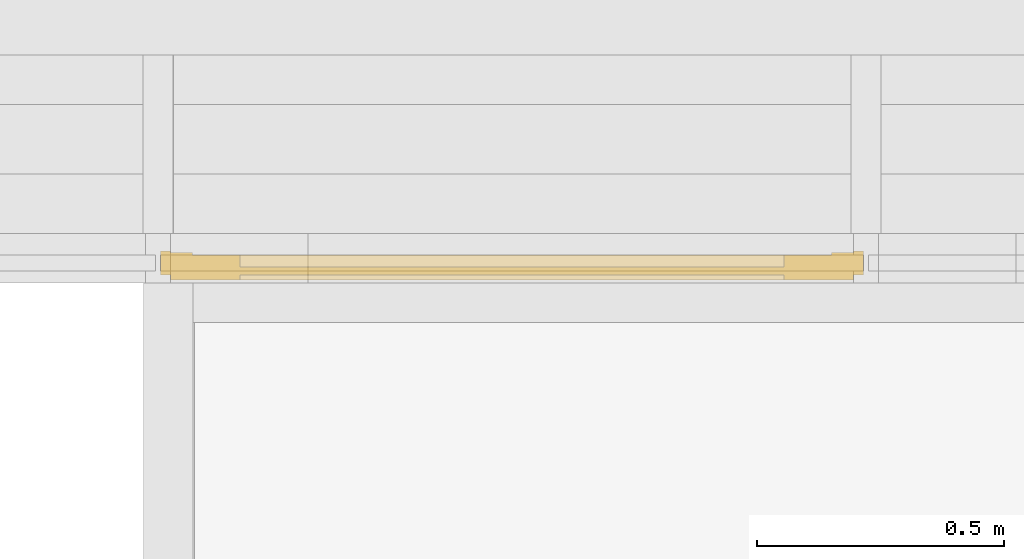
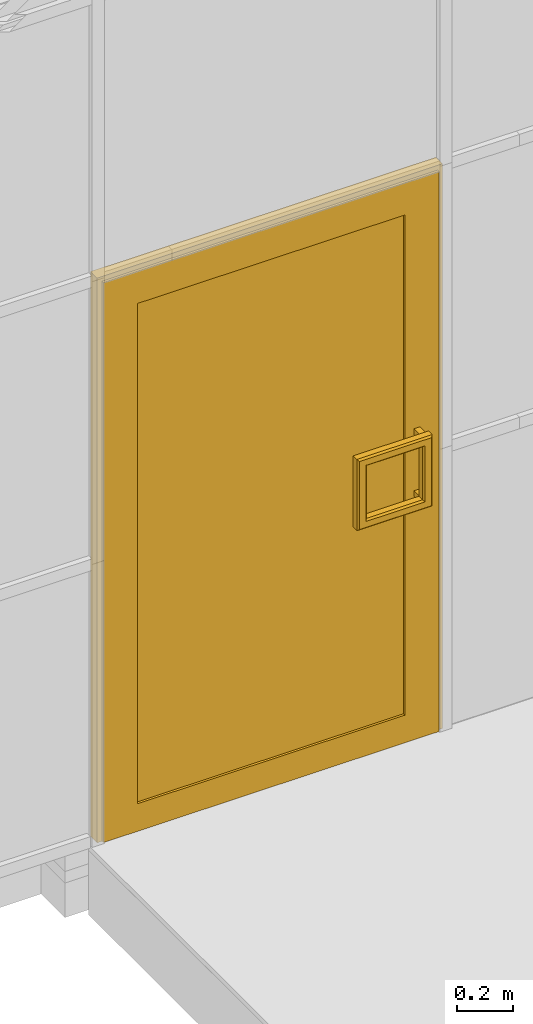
# One storey, part 238 of 260: 1 door, 1 element without a shape of its own.
"""IFC2X3 building model written with IfcOpenShell, lengths in millimetres."""

from ifc_helpers import new_model, entity, si_unit, converted_unit, derived_unit, money_unit, direction, frame, origin_with_axes, place, context, subcontext, project, spatial, faceted_brep, material, material_list, type_object, element, aggregate, save


model = new_model("IFC2X3")

# Units and contexts
model_context = context("Model", 3, precision=0.01, world=origin_with_axes(), true_north=direction((0.0, 1.0)))
body_context = subcontext(model_context, "Body", "Model", "MODEL_VIEW")
ifc_project = project(units=[si_unit("LENGTHUNIT", "METRE", prefix="MILLI"), si_unit("AREAUNIT", "SQUARE_METRE"), si_unit("VOLUMEUNIT", "CUBIC_METRE"), converted_unit("PLANEANGLEUNIT", "DEGREE", entity("IfcPlaneAngleMeasure", 0.0174532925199), si_unit("PLANEANGLEUNIT", "RADIAN"), dimensions=[0, 0, 0, 0, 0, 0, 0]), money_unit("EUR"), converted_unit("TIMEUNIT", "Year", entity("IfcTimeMeasure", 31556926.0), si_unit("TIMEUNIT", "SECOND"), dimensions=[0, 0, 1, 0, 0, 0, 0]), si_unit("MASSUNIT", "GRAM", prefix="KILO"), si_unit("THERMODYNAMICTEMPERATUREUNIT", "DEGREE_CELSIUS"), si_unit("LUMINOUSINTENSITYUNIT", "LUMEN"), si_unit("ENERGYUNIT", "JOULE", prefix="MEGA"), derived_unit("THERMALCONDUCTANCEUNIT", [(si_unit("POWERUNIT", "WATT"), 1), (si_unit("LENGTHUNIT", "METRE"), -1), (si_unit("THERMODYNAMICTEMPERATUREUNIT", "KELVIN"), -1)]), derived_unit("SPECIFICHEATCAPACITYUNIT", [(si_unit("ENERGYUNIT", "JOULE"), 1), (si_unit("MASSUNIT", "GRAM", prefix="KILO"), -1), (si_unit("THERMODYNAMICTEMPERATUREUNIT", "KELVIN"), -1)]), derived_unit("MASSDENSITYUNIT", [(si_unit("MASSUNIT", "GRAM", prefix="KILO"), 1), (si_unit("VOLUMEUNIT", "CUBIC_METRE"), -1)])], contexts=[model_context])

# Site, building, storey
site_placement = place(None, origin_with_axes())
site = spatial("IfcSite", under=ifc_project, at=site_placement, Name="Kolde pst 67a", CompositionType="ELEMENT")
building_placement = place(site_placement, origin_with_axes())
building = spatial("IfcBuilding", under=site, at=building_placement, Name="Riigigümnaasium", CompositionType="ELEMENT")
storey_placement = place(building_placement, origin_with_axes())
storey = spatial("IfcBuildingStorey", under=building, at=storey_placement, Name="1. korrus", CompositionType="ELEMENT", Elevation=0.0)

# Curtain wall, door
curtain_wall_type = type_object("IfcCurtainWallType", Name="Curtain Wall Type", PredefinedType="NOTDEFINED")
curtain_wall_placement = place(storey_placement, frame((47829.9854655, 8727.77020058, -0.000749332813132), z_axis=(0.0, 0.0, 1.0), x_axis=(1.0, 0.0, 0.0)))
curtain_wall = element("IfcCurtainWall", 1, at=curtain_wall_placement, inside=storey, type_object=curtain_wall_type, Name="KLAASFASSAAD")
ifc_material_1 = material(Name="_METALL - alumiinium")
ifc_material_2 = material(Name="_KLAAS - kirgas")
ifc_material_3 = material(Name="_METALL - teras")
ifc_material_4 = material(Name="Birch")
ifc_material_list = material_list([ifc_material_1, ifc_material_2, ifc_material_3, ifc_material_4])
door_style = type_object("IfcDoorStyle", Name="1122 x 1225 x 48", ConstructionType="NOTDEFINED", OperationType="SINGLE_SWING_RIGHT", ParameterTakesPrecedence=False, Sizeable=False)
door_placement = place(curtain_wall_placement, frame((2122.63432665, -1457.77067506, 1230.00073817), z_axis=(0.0, 0.0, 1.0), x_axis=(-1.0, 2.70881141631e-07, 0.0)))
door = element("IfcDoor", 2, at=door_placement, type_object=door_style, material=ifc_material_list, Name="Peauks", ObjectType="DOOR", OverallHeight=2435.0, OverallWidth=1380.0, context=body_context, shape_type="Brep", body=[
    faceted_brep([(586.97709102, -20.9999999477, -1230.0000186), (586.977091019, -15.9999999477, -1230.0000186), (586.977091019, -15.9999999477, 1205.00001086), (586.97709102, -20.9999999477, 1205.00001086), (541.97709102, -20.9999999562, -1230.0000186), (541.977091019, -15.9999999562, -1230.0000186), (541.977091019, -15.9999999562, 1160.00001086), (541.97709102, -20.9999999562, 1160.00001086)], [[[0, 1, 2, 3]], [[4, 5, 1, 0]], [[1, 5, 6, 2]], [[3, 2, 6, 7]], [[0, 3, 7, 4]], [[7, 6, 5, 4]]]),
    faceted_brep([(-793.022925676, -21.0000002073, 1205.00001086), (-793.022925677, -16.0000002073, 1205.00001086), (-748.022925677, -16.0000001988, 1160.00001086), (-748.022925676, -21.0000001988, 1160.00001086), (586.97709102, -20.9999999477, 1205.00001086), (586.977091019, -15.9999999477, 1205.00001086), (541.977091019, -15.9999999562, 1160.00001086), (541.97709102, -20.9999999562, 1160.00001086)], [[[0, 1, 2, 3]], [[4, 5, 1, 0]], [[1, 5, 6, 2]], [[3, 2, 6, 7]], [[0, 3, 7, 4]], [[7, 6, 5, 4]]]),
    faceted_brep([(-793.022925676, -21.0000002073, -1230.0000186), (-793.022925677, -16.0000002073, -1230.0000186), (-748.022925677, -16.0000001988, -1230.0000186), (-748.022925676, -21.0000001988, -1230.0000186), (-793.022925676, -21.0000002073, 1205.00001086), (-793.022925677, -16.0000002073, 1205.00001086), (-748.022925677, -16.0000001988, 1160.00001086), (-748.022925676, -21.0000001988, 1160.00001086)], [[[0, 1, 2, 3]], [[4, 5, 1, 0]], [[1, 5, 6, 2]], [[3, 2, 6, 7]], [[0, 3, 7, 4]], [[7, 6, 5, 4]]]),
    faceted_brep([(586.977091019, -15.9999999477, -1230.0000186), (586.977091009, 34.0000000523, -1230.0000186), (586.977091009, 34.0000000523, 1205.00001086), (586.977091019, -15.9999999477, 1205.00001086), (566.977091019, -15.9999999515, -1230.0000186), (566.977091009, 34.0000000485, -1230.0000186), (566.977091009, 34.0000000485, 1185.00001086), (566.977091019, -15.9999999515, 1185.00001086)], [[[0, 1, 2, 3]], [[4, 5, 1, 0]], [[1, 5, 6, 2]], [[3, 2, 6, 7]], [[0, 3, 7, 4]], [[7, 6, 5, 4]]]),
    faceted_brep([(-793.022925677, -16.0000002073, 1205.00001086), (-793.022925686, 33.9999997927, 1205.00001086), (-773.022925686, 33.9999997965, 1185.00001086), (-773.022925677, -16.0000002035, 1185.00001086), (586.977091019, -15.9999999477, 1205.00001086), (586.977091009, 34.0000000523, 1205.00001086), (566.977091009, 34.0000000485, 1185.00001086), (566.977091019, -15.9999999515, 1185.00001086)], [[[0, 1, 2, 3]], [[4, 5, 1, 0]], [[1, 5, 6, 2]], [[3, 2, 6, 7]], [[0, 3, 7, 4]], [[7, 6, 5, 4]]]),
    faceted_brep([(-793.022925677, -16.0000002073, -1230.0000186), (-793.022925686, 33.9999997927, -1230.0000186), (-773.022925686, 33.9999997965, -1230.0000186), (-773.022925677, -16.0000002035, -1230.0000186), (-793.022925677, -16.0000002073, 1205.00001086), (-793.022925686, 33.9999997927, 1205.00001086), (-773.022925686, 33.9999997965, 1185.00001086), (-773.022925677, -16.0000002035, 1185.00001086)], [[[0, 1, 2, 3]], [[4, 5, 1, 0]], [[1, 5, 6, 2]], [[3, 2, 6, 7]], [[0, 3, 7, 4]], [[7, 6, 5, 4]]]),
    faceted_brep([(606.977091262, -23.999999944, -1230.0000186), (606.977091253, 24.000000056, -1230.0000186), (606.977091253, 24.000000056, 1225.0000111), (606.977091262, -23.999999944, 1225.0000111), (586.97709102, -23.9999999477, -1230.0000186), (586.977091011, 24.0000000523, -1230.0000186), (586.977091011, 24.0000000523, 1205.00001086), (586.97709102, -23.9999999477, 1205.00001086)], [[[0, 1, 2, 3]], [[4, 5, 1, 0]], [[1, 5, 6, 2]], [[3, 2, 6, 7]], [[0, 3, 7, 4]], [[7, 6, 5, 4]]]),
    faceted_brep([(606.977091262, -23.999999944, 1225.0000111), (606.977091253, 24.000000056, 1225.0000111), (-813.022925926, 23.9999997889, 1225.0000111), (-813.022925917, -24.0000002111, 1225.0000111), (586.97709102, -23.9999999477, 1205.00001086), (586.977091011, 24.0000000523, 1205.00001086), (-793.022925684, 23.9999997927, 1205.00001086), (-793.022925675, -24.0000002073, 1205.00001086)], [[[0, 1, 2, 3]], [[4, 5, 1, 0]], [[1, 5, 6, 2]], [[3, 2, 6, 7]], [[0, 3, 7, 4]], [[7, 6, 5, 4]]]),
    faceted_brep([(-813.022925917, -24.0000002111, 1225.0000111), (-813.022925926, 23.9999997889, 1225.0000111), (-813.022925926, 23.9999997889, -1230.0000186), (-813.022925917, -24.0000002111, -1230.0000186), (-793.022925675, -24.0000002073, 1205.00001086), (-793.022925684, 23.9999997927, 1205.00001086), (-793.022925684, 23.9999997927, -1230.0000186), (-793.022925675, -24.0000002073, -1230.0000186)], [[[0, 1, 2, 3]], [[4, 5, 1, 0]], [[1, 5, 6, 2]], [[3, 2, 6, 7]], [[0, 3, 7, 4]], [[7, 6, 5, 4]]]),
    faceted_brep([(-653.022925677, -16.000000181, -1110.0000186), (-653.022925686, 33.999999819, -1110.0000186), (-653.022925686, 33.999999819, 1065.00001086), (-653.022925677, -16.000000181, 1065.00001086), (-773.022925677, -16.0000002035, -1230.0000186), (-773.022925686, 33.9999997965, -1230.0000186), (-773.022925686, 33.9999997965, 1185.00001086), (-773.022925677, -16.0000002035, 1185.00001086)], [[[0, 1, 2, 3]], [[4, 5, 1, 0]], [[1, 5, 6, 2]], [[3, 2, 6, 7]], [[0, 3, 7, 4]], [[7, 6, 5, 4]]]),
    faceted_brep([(566.977091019, -15.9999999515, -1230.0000186), (566.977091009, 34.0000000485, -1230.0000186), (566.977091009, 34.0000000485, 1185.00001086), (566.977091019, -15.9999999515, 1185.00001086), (446.977091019, -15.9999999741, -1110.0000186), (446.977091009, 34.0000000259, -1110.0000186), (446.977091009, 34.0000000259, 1065.00001086), (446.977091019, -15.9999999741, 1065.00001086)], [[[0, 1, 2, 3]], [[4, 5, 1, 0]], [[1, 5, 6, 2]], [[3, 2, 6, 7]], [[0, 3, 7, 4]], [[7, 6, 5, 4]]]),
    faceted_brep([(566.977091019, -15.9999999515, -1230.0000186), (566.977091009, 34.0000000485, -1230.0000186), (446.977091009, 34.0000000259, -1110.0000186), (446.977091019, -15.9999999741, -1110.0000186), (-773.022925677, -16.0000002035, -1230.0000186), (-773.022925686, 33.9999997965, -1230.0000186), (-653.022925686, 33.999999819, -1110.0000186), (-653.022925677, -16.000000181, -1110.0000186)], [[[0, 1, 2, 3]], [[4, 5, 1, 0]], [[1, 5, 6, 2]], [[3, 2, 6, 7]], [[0, 3, 7, 4]], [[7, 6, 5, 4]]]),
    faceted_brep([(-773.022925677, -16.0000002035, 1185.00001086), (-773.022925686, 33.9999997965, 1185.00001086), (-653.022925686, 33.999999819, 1065.00001086), (-653.022925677, -16.000000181, 1065.00001086), (566.977091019, -15.9999999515, 1185.00001086), (566.977091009, 34.0000000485, 1185.00001086), (446.977091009, 34.0000000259, 1065.00001086), (446.977091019, -15.9999999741, 1065.00001086)], [[[0, 1, 2, 3]], [[4, 5, 1, 0]], [[1, 5, 6, 2]], [[3, 2, 6, 7]], [[0, 3, 7, 4]], [[7, 6, 5, 4]]]),
    faceted_brep([(-653.022925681, 7.99999981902, -1110.0000186), (-653.022925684, 23.999999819, -1110.0000186), (446.977091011, 24.0000000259, -1110.0000186), (446.977091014, 8.00000002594, -1110.0000186), (-653.022925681, 7.99999981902, 1065.00001086), (-653.022925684, 23.999999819, 1065.00001086), (446.977091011, 24.0000000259, 1065.00001086), (446.977091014, 8.00000002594, 1065.00001086)], [[[0, 1, 2, 3]], [[4, 5, 1, 0]], [[1, 5, 6, 2]], [[3, 2, 6, 7]], [[0, 3, 7, 4]], [[7, 6, 5, 4]]]),
    faceted_brep([(-690.522925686, 33.999999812, -147.050018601), (-690.522925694, 73.999999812, -147.050018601), (-715.522925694, 73.9999998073, -147.050018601), (-715.522925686, 33.9999998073, -147.050018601), (-690.522925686, 33.999999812, -172.050018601), (-690.522925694, 73.999999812, -172.050018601), (-715.522925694, 73.9999998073, -172.050018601), (-715.522925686, 33.9999998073, -172.050018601)], [[[0, 1, 2, 3]], [[4, 5, 1, 0]], [[1, 5, 6, 2]], [[3, 2, 6, 7]], [[0, 3, 7, 4]], [[7, 6, 5, 4]]]),
    faceted_brep([(-690.072925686, 33.9999998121, 97.0499813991), (-690.072925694, 73.9999998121, 97.0499813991), (-690.072925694, 73.9999998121, 122.049981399), (-690.072925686, 33.9999998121, 122.049981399), (-715.072925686, 33.9999998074, 97.0499813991), (-715.072925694, 73.9999998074, 97.0499813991), (-715.072925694, 73.9999998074, 122.049981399), (-715.072925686, 33.9999998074, 122.049981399)], [[[0, 1, 2, 3]], [[4, 5, 1, 0]], [[1, 5, 6, 2]], [[3, 2, 6, 7]], [[0, 3, 7, 4]], [[7, 6, 5, 4]]]),
    faceted_brep([(-433.022925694, 73.9999998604, -160.000018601), (-433.022925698, 98.9999998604, -160.000018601), (-433.022925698, 98.9999998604, 109.999981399), (-433.022925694, 73.9999998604, 109.999981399), (-703.022925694, 73.9999998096, -160.000018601), (-703.022925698, 98.9999998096, -160.000018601), (-703.022925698, 98.9999998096, 109.999981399), (-438.022925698, 98.9999998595, -155.000018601), (-438.022925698, 98.9999998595, 104.999981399), (-698.022925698, 98.9999998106, 104.999981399), (-698.022925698, 98.9999998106, -155.000018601), (-703.022925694, 73.9999998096, 109.999981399), (-438.022925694, 73.9999998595, -155.000018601), (-698.022925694, 73.9999998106, -155.000018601), (-698.022925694, 73.9999998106, 104.999981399), (-438.022925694, 73.9999998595, 104.999981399)], [[[0, 1, 2, 3]], [[4, 5, 1, 0]], [[1, 5, 6, 2], [7, 8, 9, 10]], [[3, 2, 6, 11]], [[0, 3, 11, 4], [12, 13, 14, 15]], [[11, 6, 5, 4]], [[15, 8, 7, 12]], [[14, 9, 8, 15]], [[13, 10, 9, 14]], [[12, 7, 10, 13]]]),
    faceted_brep([(-453.022925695, 81.0499998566, -155.000018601), (-453.022925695, 81.0499998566, -140.000018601), (-445.972925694, 73.999999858, -147.050018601), (-445.972925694, 73.999999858, -155.000018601), (-453.022925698, 98.9999998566, -155.000018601), (-453.022925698, 98.9999998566, -160.000018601), (-453.022925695, 81.0499998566, -160.000018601), (-453.022925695, 81.0499998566, -180.000018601), (-453.0229257, 106.949999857, -180.000018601), (-453.0229257, 106.949999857, -140.000018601), (-698.022925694, 73.9999998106, -147.050018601), (-698.022925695, 81.0499998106, -140.000018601), (-698.022925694, 73.9999998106, -155.000018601), (-698.022925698, 98.9999998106, -155.000018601), (-698.022925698, 98.9999998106, -140.000018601), (-703.022925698, 98.9999998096, -140.000018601), (-703.022925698, 98.9999998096, -160.000018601), (-703.022925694, 73.9999998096, -160.000018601), (-445.972925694, 73.999999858, -160.000018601), (-445.972925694, 73.999999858, -172.950018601), (-723.022925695, 81.0499998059, -180.000018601), (-723.0229257, 106.949999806, -180.000018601), (-445.972925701, 113.999999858, -172.950018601), (-445.972925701, 113.999999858, -147.050018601), (-723.0229257, 106.949999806, -140.000018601), (-723.022925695, 81.0499998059, -140.000018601), (-703.022925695, 81.0499998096, -140.000018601), (-703.022925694, 73.9999998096, -147.050018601), (-715.972925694, 73.9999998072, -147.050018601), (-715.972925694, 73.9999998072, -172.950018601), (-715.972925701, 113.999999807, -172.950018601), (-715.972925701, 113.999999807, -147.050018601)], [[[0, 1, 2, 3]], [[4, 5, 6, 7, 8, 9, 1, 0]], [[10, 2, 1, 11]], [[12, 3, 2, 10]], [[12, 13, 4, 0, 3]], [[4, 13, 14, 15, 16, 5]], [[6, 5, 16, 17, 18]], [[18, 19, 7, 6]], [[20, 21, 8, 7]], [[8, 22, 23, 9]], [[15, 14, 11, 1, 9, 24, 25, 26]], [[14, 13, 12, 10, 11]], [[26, 27, 17, 16, 15]], [[17, 27, 28, 29, 19, 18]], [[29, 20, 7, 19]], [[20, 25, 24, 21]], [[21, 30, 22, 8]], [[30, 31, 23, 22]], [[31, 24, 9, 23]], [[26, 25, 28, 27]], [[29, 28, 25, 20]], [[24, 31, 30, 21]]]),
    faceted_brep([(-698.022925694, 73.9999998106, -147.050018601), (-690.072925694, 73.999999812, -147.050018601), (-690.072925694, 73.999999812, 97.0499813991), (-698.022925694, 73.9999998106, 97.0499813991), (-698.022925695, 81.0499998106, -140.000018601), (-683.022925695, 81.0499998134, -140.000018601), (-683.022925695, 81.0499998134, 89.9999813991), (-698.022925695, 81.0499998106, 89.9999813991), (-698.022925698, 98.9999998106, 89.9999813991), (-698.022925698, 98.9999998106, -140.000018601), (-703.022925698, 98.9999998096, -140.000018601), (-703.022925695, 81.0499998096, -140.000018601), (-723.022925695, 81.0499998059, -140.000018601), (-723.0229257, 106.949999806, -140.000018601), (-683.0229257, 106.949999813, -140.000018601), (-683.0229257, 106.949999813, 89.9999813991), (-703.022925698, 98.9999998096, 89.9999813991), (-723.0229257, 106.949999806, 89.9999813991), (-723.022925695, 81.0499998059, 89.9999813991), (-703.022925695, 81.0499998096, 89.9999813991), (-703.022925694, 73.9999998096, -147.050018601), (-703.022925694, 73.9999998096, 97.0499813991), (-715.972925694, 73.9999998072, -147.050018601), (-715.972925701, 113.999999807, -147.050018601), (-690.072925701, 113.999999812, -147.050018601), (-690.072925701, 113.999999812, 97.0499813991), (-715.972925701, 113.999999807, 97.0499813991), (-715.972925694, 73.9999998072, 97.0499813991)], [[[0, 1, 2, 3]], [[4, 5, 1, 0]], [[6, 2, 1, 5]], [[3, 2, 6, 7]], [[7, 8, 9, 4, 0, 3]], [[9, 10, 11, 12, 13, 14, 5, 4]], [[15, 6, 5, 14]], [[16, 8, 7, 6, 15, 17, 18, 19]], [[16, 10, 9, 8]], [[20, 11, 10, 16, 19, 21]], [[20, 22, 12, 11]], [[18, 17, 13, 12]], [[13, 23, 24, 14]], [[25, 15, 14, 24]], [[26, 17, 15, 25]], [[19, 18, 27, 21]], [[21, 27, 22, 20]], [[27, 18, 12, 22]], [[17, 26, 23, 13]], [[26, 25, 24, 23]]]),
    faceted_brep([(-703.022925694, 73.9999998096, 109.999981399), (-433.022925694, 73.9999998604, 109.999981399), (-433.022925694, 73.9999998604, 97.0499813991), (-420.072925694, 73.9999998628, 97.0499813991), (-420.072925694, 73.9999998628, 122.949981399), (-715.972925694, 73.9999998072, 122.949981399), (-715.972925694, 73.9999998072, 97.0499813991), (-703.022925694, 73.9999998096, 97.0499813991), (-703.022925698, 98.9999998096, 109.999981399), (-433.022925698, 98.9999998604, 109.999981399), (-433.022925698, 98.9999998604, 89.9999813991), (-433.022925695, 81.0499998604, 89.9999813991), (-413.022925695, 81.0499998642, 89.9999813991), (-413.022925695, 81.0499998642, 129.999981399), (-723.022925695, 81.0499998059, 129.999981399), (-723.022925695, 81.0499998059, 89.9999813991), (-703.022925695, 81.0499998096, 89.9999813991), (-703.022925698, 98.9999998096, 89.9999813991), (-698.022925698, 98.9999998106, 89.9999813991), (-698.022925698, 98.9999998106, 104.999981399), (-438.022925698, 98.9999998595, 104.999981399), (-438.022925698, 98.9999998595, 89.9999813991), (-438.022925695, 81.0499998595, 89.9999813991), (-698.022925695, 81.0499998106, 89.9999813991), (-723.0229257, 106.949999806, 89.9999813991), (-413.0229257, 106.949999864, 89.9999813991), (-413.0229257, 106.949999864, 129.999981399), (-723.0229257, 106.949999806, 129.999981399), (-698.022925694, 73.9999998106, 104.999981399), (-698.022925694, 73.9999998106, 97.0499813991), (-438.022925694, 73.9999998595, 104.999981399), (-438.022925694, 73.9999998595, 97.0499813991), (-420.072925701, 113.999999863, 97.0499813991), (-715.972925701, 113.999999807, 97.0499813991), (-420.072925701, 113.999999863, 122.949981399), (-715.972925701, 113.999999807, 122.949981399)], [[[0, 1, 2, 3, 4, 5, 6, 7]], [[0, 8, 9, 1]], [[1, 9, 10, 11, 2]], [[11, 12, 3, 2]], [[3, 12, 13, 4]], [[4, 13, 14, 5]], [[15, 6, 5, 14]], [[7, 6, 15, 16]], [[7, 16, 17, 8, 0]], [[10, 9, 8, 17, 18, 19, 20, 21]], [[10, 21, 22, 23, 18, 17, 16, 15, 24, 25, 12, 11]], [[12, 25, 26, 13]], [[13, 26, 27, 14]], [[24, 15, 14, 27]], [[28, 19, 18, 23, 29]], [[30, 20, 19, 28]], [[31, 22, 21, 20, 30]], [[31, 29, 23, 22]], [[32, 25, 24, 33]], [[25, 32, 34, 26]], [[26, 34, 35, 27]], [[24, 27, 35, 33]], [[30, 28, 29, 31]], [[34, 32, 33, 35]]]),
    faceted_brep([(-445.972925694, 73.999999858, -160.000018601), (-445.972925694, 73.999999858, -172.950018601), (-420.072925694, 73.9999998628, -172.950018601), (-420.072925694, 73.9999998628, 97.0499813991), (-433.022925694, 73.9999998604, 97.0499813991), (-433.022925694, 73.9999998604, -160.000018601), (-453.022925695, 81.0499998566, -160.000018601), (-453.022925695, 81.0499998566, -180.000018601), (-413.022925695, 81.0499998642, -180.000018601), (-413.022925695, 81.0499998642, 89.9999813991), (-433.022925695, 81.0499998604, 89.9999813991), (-433.022925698, 98.9999998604, 89.9999813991), (-433.022925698, 98.9999998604, -160.000018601), (-453.022925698, 98.9999998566, -160.000018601), (-453.022925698, 98.9999998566, -155.000018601), (-453.022925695, 81.0499998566, -155.000018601), (-453.022925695, 81.0499998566, 89.9999813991), (-453.0229257, 106.949999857, 89.9999813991), (-453.0229257, 106.949999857, -180.000018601), (-413.0229257, 106.949999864, -180.000018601), (-413.0229257, 106.949999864, 89.9999813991), (-438.022925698, 98.9999998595, 89.9999813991), (-438.022925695, 81.0499998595, 89.9999813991), (-438.022925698, 98.9999998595, -155.000018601), (-445.972925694, 73.999999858, -155.000018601), (-438.022925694, 73.9999998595, -155.000018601), (-445.972925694, 73.999999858, 97.0499813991), (-445.972925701, 113.999999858, -172.950018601), (-445.972925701, 113.999999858, 97.0499813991), (-420.072925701, 113.999999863, -172.950018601), (-420.072925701, 113.999999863, 97.0499813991), (-438.022925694, 73.9999998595, 97.0499813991)], [[[0, 1, 2, 3, 4, 5]], [[6, 7, 1, 0]], [[7, 8, 2, 1]], [[2, 8, 9, 3]], [[4, 3, 9, 10]], [[10, 11, 12, 5, 4]], [[5, 12, 13, 6, 0]], [[13, 14, 15, 16, 17, 18, 7, 6]], [[18, 19, 8, 7]], [[8, 19, 20, 9]], [[21, 11, 10, 9, 20, 17, 16, 22]], [[21, 23, 14, 13, 12, 11]], [[24, 15, 14, 23, 25]], [[24, 26, 16, 15]], [[27, 18, 17, 28]], [[27, 29, 19, 18]], [[19, 29, 30, 20]], [[28, 17, 20, 30]], [[22, 16, 26, 31]], [[25, 23, 21, 22, 31]], [[25, 31, 26, 24]], [[29, 27, 28, 30]]]),
    faceted_brep([(-690.522925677, -16.000000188, -147.050018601), (-715.522925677, -16.0000001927, -147.050018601), (-715.522925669, -56.0000001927, -147.050018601), (-690.522925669, -56.000000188, -147.050018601), (-690.522925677, -16.000000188, -172.050018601), (-715.522925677, -16.0000001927, -172.050018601), (-715.522925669, -56.0000001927, -172.050018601), (-690.522925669, -56.000000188, -172.050018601)], [[[0, 1, 2, 3]], [[0, 4, 5, 1]], [[1, 5, 6, 2]], [[3, 2, 6, 7]], [[4, 0, 3, 7]], [[5, 4, 7, 6]]]),
    faceted_brep([(-690.072925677, -16.0000001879, 97.0499813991), (-690.072925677, -16.0000001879, 122.049981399), (-690.072925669, -56.0000001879, 122.049981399), (-690.072925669, -56.0000001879, 97.0499813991), (-715.072925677, -16.0000001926, 97.0499813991), (-715.072925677, -16.0000001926, 122.049981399), (-715.072925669, -56.0000001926, 122.049981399), (-715.072925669, -56.0000001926, 97.0499813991)], [[[0, 1, 2, 3]], [[0, 4, 5, 1]], [[1, 5, 6, 2]], [[3, 2, 6, 7]], [[4, 0, 3, 7]], [[5, 4, 7, 6]]]),
    faceted_brep([(-433.022925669, -56.0000001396, -160.000018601), (-433.022925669, -56.0000001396, 109.999981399), (-433.022925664, -81.0000001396, 109.999981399), (-433.022925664, -81.0000001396, -160.000018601), (-703.022925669, -56.0000001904, -160.000018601), (-703.022925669, -56.0000001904, 109.999981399), (-438.022925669, -56.0000001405, -155.000018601), (-438.022925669, -56.0000001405, 104.999981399), (-698.022925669, -56.0000001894, 104.999981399), (-698.022925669, -56.0000001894, -155.000018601), (-703.022925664, -81.0000001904, 109.999981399), (-703.022925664, -81.0000001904, -160.000018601), (-438.022925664, -81.0000001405, -155.000018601), (-698.022925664, -81.0000001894, -155.000018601), (-698.022925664, -81.0000001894, 104.999981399), (-438.022925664, -81.0000001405, 104.999981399)], [[[0, 1, 2, 3]], [[0, 4, 5, 1], [6, 7, 8, 9]], [[1, 5, 10, 2]], [[3, 2, 10, 11], [12, 13, 14, 15]], [[4, 0, 3, 11]], [[5, 4, 11, 10]], [[7, 6, 12, 15]], [[8, 7, 15, 14]], [[9, 8, 14, 13]], [[6, 9, 13, 12]]]),
    faceted_brep([(-453.022925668, -63.0500001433, -155.000018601), (-445.972925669, -56.000000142, -155.000018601), (-445.972925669, -56.000000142, -147.050018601), (-453.022925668, -63.0500001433, -140.000018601), (-698.022925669, -56.0000001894, -155.000018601), (-453.022925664, -81.0000001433, -155.000018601), (-698.022925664, -81.0000001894, -155.000018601), (-698.022925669, -56.0000001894, -147.050018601), (-698.022925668, -63.0500001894, -140.000018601), (-453.022925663, -88.9500001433, -140.000018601), (-453.022925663, -88.9500001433, -180.000018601), (-453.022925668, -63.0500001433, -180.000018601), (-453.022925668, -63.0500001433, -160.000018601), (-453.022925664, -81.0000001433, -160.000018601), (-703.022925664, -81.0000001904, -160.000018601), (-703.022925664, -81.0000001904, -140.000018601), (-698.022925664, -81.0000001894, -140.000018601), (-703.022925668, -63.0500001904, -140.000018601), (-723.022925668, -63.0500001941, -140.000018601), (-723.022925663, -88.9500001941, -140.000018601), (-445.972925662, -96.000000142, -147.050018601), (-445.972925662, -96.000000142, -172.950018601), (-723.022925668, -63.0500001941, -180.000018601), (-723.022925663, -88.9500001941, -180.000018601), (-445.972925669, -56.000000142, -160.000018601), (-445.972925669, -56.000000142, -172.950018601), (-703.022925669, -56.0000001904, -160.000018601), (-703.022925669, -56.0000001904, -147.050018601), (-715.972925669, -56.0000001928, -147.050018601), (-715.972925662, -96.0000001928, -147.050018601), (-715.972925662, -96.0000001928, -172.950018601), (-715.972925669, -56.0000001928, -172.950018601)], [[[0, 1, 2, 3]], [[4, 1, 0, 5, 6]], [[4, 7, 2, 1]], [[7, 8, 3, 2]], [[5, 0, 3, 9, 10, 11, 12, 13]], [[5, 13, 14, 15, 16, 6]], [[16, 8, 7, 4, 6]], [[15, 17, 18, 19, 9, 3, 8, 16]], [[10, 9, 20, 21]], [[22, 11, 10, 23]], [[24, 12, 11, 25]], [[12, 24, 26, 14, 13]], [[17, 15, 14, 26, 27]], [[17, 27, 28, 18]], [[22, 23, 19, 18]], [[29, 20, 9, 19]], [[30, 21, 20, 29]], [[23, 10, 21, 30]], [[31, 25, 11, 22]], [[26, 24, 25, 31, 28, 27]], [[31, 22, 18, 28]], [[19, 23, 30, 29]]]),
    faceted_brep([(-698.022925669, -56.0000001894, -147.050018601), (-698.022925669, -56.0000001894, 97.0499813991), (-690.072925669, -56.0000001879, 97.0499813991), (-690.072925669, -56.0000001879, -147.050018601), (-698.022925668, -63.0500001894, 89.9999813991), (-698.022925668, -63.0500001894, -140.000018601), (-698.022925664, -81.0000001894, -140.000018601), (-698.022925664, -81.0000001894, 89.9999813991), (-683.022925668, -63.0500001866, 89.9999813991), (-683.022925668, -63.0500001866, -140.000018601), (-683.022925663, -88.9500001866, -140.000018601), (-723.022925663, -88.9500001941, -140.000018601), (-723.022925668, -63.0500001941, -140.000018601), (-703.022925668, -63.0500001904, -140.000018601), (-703.022925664, -81.0000001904, -140.000018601), (-703.022925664, -81.0000001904, 89.9999813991), (-703.022925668, -63.0500001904, 89.9999813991), (-723.022925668, -63.0500001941, 89.9999813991), (-723.022925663, -88.9500001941, 89.9999813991), (-683.022925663, -88.9500001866, 89.9999813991), (-690.072925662, -96.0000001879, -147.050018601), (-715.972925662, -96.0000001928, -147.050018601), (-703.022925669, -56.0000001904, -147.050018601), (-715.972925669, -56.0000001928, -147.050018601), (-703.022925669, -56.0000001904, 97.0499813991), (-715.972925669, -56.0000001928, 97.0499813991), (-715.972925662, -96.0000001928, 97.0499813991), (-690.072925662, -96.0000001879, 97.0499813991)], [[[0, 1, 2, 3]], [[4, 1, 0, 5, 6, 7]], [[1, 4, 8, 2]], [[8, 9, 3, 2]], [[5, 0, 3, 9]], [[6, 5, 9, 10, 11, 12, 13, 14]], [[15, 7, 6, 14]], [[15, 16, 17, 18, 19, 8, 4, 7]], [[19, 10, 9, 8]], [[11, 10, 20, 21]], [[17, 12, 11, 18]], [[22, 13, 12, 23]], [[22, 24, 16, 15, 14, 13]], [[16, 24, 25, 17]], [[26, 27, 19, 18]], [[27, 20, 10, 19]], [[26, 21, 20, 27]], [[18, 11, 21, 26]], [[25, 23, 12, 17]], [[24, 22, 23, 25]]]),
    faceted_brep([(-703.022925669, -56.0000001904, 109.999981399), (-703.022925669, -56.0000001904, 97.0499813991), (-715.972925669, -56.0000001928, 97.0499813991), (-715.972925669, -56.0000001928, 122.949981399), (-420.072925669, -56.0000001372, 122.949981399), (-420.072925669, -56.0000001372, 97.0499813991), (-433.022925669, -56.0000001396, 97.0499813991), (-433.022925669, -56.0000001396, 109.999981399), (-703.022925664, -81.0000001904, 109.999981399), (-703.022925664, -81.0000001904, 89.9999813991), (-703.022925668, -63.0500001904, 89.9999813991), (-723.022925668, -63.0500001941, 89.9999813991), (-723.022925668, -63.0500001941, 129.999981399), (-413.022925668, -63.0500001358, 129.999981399), (-413.022925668, -63.0500001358, 89.9999813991), (-433.022925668, -63.0500001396, 89.9999813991), (-433.022925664, -81.0000001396, 89.9999813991), (-433.022925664, -81.0000001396, 109.999981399), (-438.022925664, -81.0000001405, 89.9999813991), (-438.022925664, -81.0000001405, 104.999981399), (-698.022925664, -81.0000001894, 104.999981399), (-698.022925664, -81.0000001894, 89.9999813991), (-413.022925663, -88.9500001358, 89.9999813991), (-723.022925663, -88.9500001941, 89.9999813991), (-698.022925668, -63.0500001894, 89.9999813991), (-438.022925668, -63.0500001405, 89.9999813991), (-723.022925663, -88.9500001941, 129.999981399), (-413.022925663, -88.9500001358, 129.999981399), (-438.022925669, -56.0000001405, 97.0499813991), (-438.022925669, -56.0000001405, 104.999981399), (-698.022925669, -56.0000001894, 104.999981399), (-698.022925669, -56.0000001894, 97.0499813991), (-420.072925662, -96.0000001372, 97.0499813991), (-715.972925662, -96.0000001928, 97.0499813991), (-715.972925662, -96.0000001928, 122.949981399), (-420.072925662, -96.0000001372, 122.949981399)], [[[0, 1, 2, 3, 4, 5, 6, 7]], [[1, 0, 8, 9, 10]], [[1, 10, 11, 2]], [[11, 12, 3, 2]], [[4, 3, 12, 13]], [[5, 4, 13, 14]], [[15, 6, 5, 14]], [[7, 6, 15, 16, 17]], [[0, 7, 17, 8]], [[16, 18, 19, 20, 21, 9, 8, 17]], [[16, 15, 14, 22, 23, 11, 10, 9, 21, 24, 25, 18]], [[23, 26, 12, 11]], [[13, 12, 26, 27]], [[14, 13, 27, 22]], [[28, 29, 19, 18, 25]], [[29, 30, 20, 19]], [[30, 31, 24, 21, 20]], [[32, 33, 23, 22]], [[28, 25, 24, 31]], [[23, 33, 34, 26]], [[27, 26, 34, 35]], [[22, 27, 35, 32]], [[29, 28, 31, 30]], [[35, 34, 33, 32]]]),
    faceted_brep([(-445.972925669, -56.000000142, -160.000018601), (-433.022925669, -56.0000001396, -160.000018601), (-433.022925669, -56.0000001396, 97.0499813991), (-420.072925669, -56.0000001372, 97.0499813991), (-420.072925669, -56.0000001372, -172.950018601), (-445.972925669, -56.000000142, -172.950018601), (-453.022925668, -63.0500001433, -160.000018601), (-453.022925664, -81.0000001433, -160.000018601), (-433.022925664, -81.0000001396, -160.000018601), (-433.022925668, -63.0500001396, 89.9999813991), (-433.022925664, -81.0000001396, 89.9999813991), (-413.022925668, -63.0500001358, 89.9999813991), (-413.022925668, -63.0500001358, -180.000018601), (-453.022925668, -63.0500001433, -180.000018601), (-453.022925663, -88.9500001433, -180.000018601), (-453.022925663, -88.9500001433, 89.9999813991), (-453.022925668, -63.0500001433, 89.9999813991), (-453.022925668, -63.0500001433, -155.000018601), (-453.022925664, -81.0000001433, -155.000018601), (-438.022925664, -81.0000001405, 89.9999813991), (-438.022925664, -81.0000001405, -155.000018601), (-438.022925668, -63.0500001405, 89.9999813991), (-413.022925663, -88.9500001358, 89.9999813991), (-413.022925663, -88.9500001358, -180.000018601), (-445.972925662, -96.000000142, -172.950018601), (-445.972925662, -96.000000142, 97.0499813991), (-445.972925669, -56.000000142, -155.000018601), (-445.972925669, -56.000000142, 97.0499813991), (-438.022925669, -56.0000001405, -155.000018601), (-438.022925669, -56.0000001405, 97.0499813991), (-420.072925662, -96.0000001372, 97.0499813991), (-420.072925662, -96.0000001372, -172.950018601)], [[[0, 1, 2, 3, 4, 5]], [[1, 0, 6, 7, 8]], [[9, 2, 1, 8, 10]], [[2, 9, 11, 3]], [[4, 3, 11, 12]], [[13, 5, 4, 12]], [[6, 0, 5, 13]], [[7, 6, 13, 14, 15, 16, 17, 18]], [[19, 10, 8, 7, 18, 20]], [[19, 21, 16, 15, 22, 11, 9, 10]], [[12, 11, 22, 23]], [[14, 13, 12, 23]], [[24, 25, 15, 14]], [[26, 17, 16, 27]], [[26, 28, 20, 18, 17]], [[28, 29, 21, 19, 20]], [[21, 29, 27, 16]], [[25, 30, 22, 15]], [[23, 22, 30, 31]], [[24, 14, 23, 31]], [[31, 30, 25, 24]], [[28, 26, 27, 29]]]),
])
aggregate(curtain_wall, [door])

save(model, "model.ifc")
